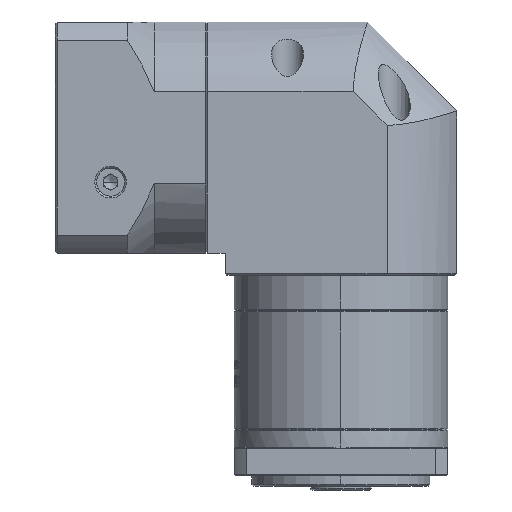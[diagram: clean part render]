
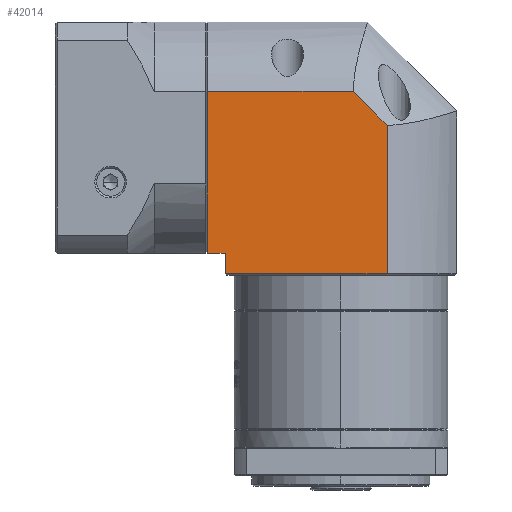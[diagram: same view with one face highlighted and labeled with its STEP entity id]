
A CAD part, left-side view. The second image highlights one B-rep face of the part: STEP entity #42014.
In plain terms, the highlighted planar face has unit normal (-1, 0, 0).
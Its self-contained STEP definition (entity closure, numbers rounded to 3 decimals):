
#422 = LINE ( 'NONE', #62744, #60181 ) ;
#2864 = AXIS2_PLACEMENT_3D ( 'NONE', #61651, #52613, #11694 ) ;
#3374 = LINE ( 'NONE', #81082, #32249 ) ;
#3597 = EDGE_CURVE ( 'NONE', #106434, #98077, #93833, .T. ) ;
#3609 = VERTEX_POINT ( 'NONE', #32437 ) ;
#4591 = DIRECTION ( 'NONE',  ( 0., 0., -1. ) ) ;
#8870 = ORIENTED_EDGE ( 'NONE', *, *, #67041, .T. ) ;
#11694 = DIRECTION ( 'NONE',  ( 0., 0., -1. ) ) ;
#12431 = VERTEX_POINT ( 'NONE', #86453 ) ;
#18075 = EDGE_CURVE ( 'NONE', #88495, #12431, #89034, .T. ) ;
#19212 = DIRECTION ( 'NONE',  ( 0., -1., 0. ) ) ;
#20836 = ORIENTED_EDGE ( 'NONE', *, *, #18075, .F. ) ;
#23229 = DIRECTION ( 'NONE',  ( 0., 0., -1. ) ) ;
#24211 = CARTESIAN_POINT ( 'NONE',  ( 6.727, 33.076, -23.474 ) ) ;
#25913 = EDGE_CURVE ( 'NONE', #41769, #104690, #3374, .T. ) ;
#27532 = PLANE ( 'NONE',  #2864 ) ;
#28463 = ORIENTED_EDGE ( 'NONE', *, *, #103267, .F. ) ;
#29000 = CARTESIAN_POINT ( 'NONE',  ( 6.727, 13.566, -17.774 ) ) ;
#32249 = VECTOR ( 'NONE', #23229, 1000. ) ;
#32437 = CARTESIAN_POINT ( 'NONE',  ( 6.727, 42.573, 27.716 ) ) ;
#33129 = ORIENTED_EDGE ( 'NONE', *, *, #3597, .T. ) ;
#41681 = VECTOR ( 'NONE', #4591, 1000. ) ;
#41769 = VERTEX_POINT ( 'NONE', #50101 ) ;
#42014 = ADVANCED_FACE ( 'NONE', ( #76193 ), #27532, .T. ) ;
#43134 = EDGE_CURVE ( 'NONE', #12431, #98077, #78284, .T. ) ;
#45479 = CARTESIAN_POINT ( 'NONE',  ( 6.727, 13.566, 27.716 ) ) ;
#47379 = VECTOR ( 'NONE', #19212, 1000. ) ;
#48670 = VECTOR ( 'NONE', #105396, 1000. ) ;
#50101 = CARTESIAN_POINT ( 'NONE',  ( 6.727, 33.076, 18.219 ) ) ;
#52613 = DIRECTION ( 'NONE',  ( -1., 0., 0. ) ) ;
#60181 = VECTOR ( 'NONE', #87947, 1000. ) ;
#61628 = LINE ( 'NONE', #45479, #47379 ) ;
#61651 = CARTESIAN_POINT ( 'NONE',  ( 6.727, 13.566, -27.774 ) ) ;
#62744 = CARTESIAN_POINT ( 'NONE',  ( 6.727, -328.229, -343.086 ) ) ;
#62745 = DIRECTION ( 'NONE',  ( 0., 1., 0. ) ) ;
#62978 = CARTESIAN_POINT ( 'NONE',  ( 6.727, 78.566, -23.474 ) ) ;
#67041 = EDGE_CURVE ( 'NONE', #88495, #104690, #107835, .T. ) ;
#72334 = ORIENTED_EDGE ( 'NONE', *, *, #105935, .F. ) ;
#75017 = ORIENTED_EDGE ( 'NONE', *, *, #25913, .F. ) ;
#75164 = EDGE_LOOP ( 'NONE', ( #72334, #28463, #33129, #106020, #20836, #8870, #75017 ) ) ;
#76193 = FACE_OUTER_BOUND ( 'NONE', #75164, .T. ) ;
#78284 = LINE ( 'NONE', #29000, #97906 ) ;
#80361 = VECTOR ( 'NONE', #92669, 1000. ) ;
#80861 = CARTESIAN_POINT ( 'NONE',  ( 6.727, 78.566, -27.774 ) ) ;
#81082 = CARTESIAN_POINT ( 'NONE',  ( 6.727, 33.076, 47.226 ) ) ;
#83891 = CARTESIAN_POINT ( 'NONE',  ( 6.727, 13.566, -23.474 ) ) ;
#86453 = CARTESIAN_POINT ( 'NONE',  ( 6.727, 78.566, -17.774 ) ) ;
#87947 = DIRECTION ( 'NONE',  ( 0., -0.707, -0.707 ) ) ;
#88495 = VERTEX_POINT ( 'NONE', #62978 ) ;
#89034 = LINE ( 'NONE', #80861, #48670 ) ;
#90240 = CARTESIAN_POINT ( 'NONE',  ( 6.727, 83.566, -17.774 ) ) ;
#92669 = DIRECTION ( 'NONE',  ( 0., -1., 0. ) ) ;
#93833 = LINE ( 'NONE', #104606, #41681 ) ;
#97906 = VECTOR ( 'NONE', #62745, 1000. ) ;
#98077 = VERTEX_POINT ( 'NONE', #90240 ) ;
#102479 = CARTESIAN_POINT ( 'NONE',  ( 6.727, 83.566, 27.716 ) ) ;
#103267 = EDGE_CURVE ( 'NONE', #106434, #3609, #61628, .T. ) ;
#104606 = CARTESIAN_POINT ( 'NONE',  ( 6.727, 83.566, -17.774 ) ) ;
#104690 = VERTEX_POINT ( 'NONE', #24211 ) ;
#105396 = DIRECTION ( 'NONE',  ( 0., 0., 1. ) ) ;
#105935 = EDGE_CURVE ( 'NONE', #3609, #41769, #422, .T. ) ;
#106020 = ORIENTED_EDGE ( 'NONE', *, *, #43134, .F. ) ;
#106434 = VERTEX_POINT ( 'NONE', #102479 ) ;
#107835 = LINE ( 'NONE', #83891, #80361 ) ;
